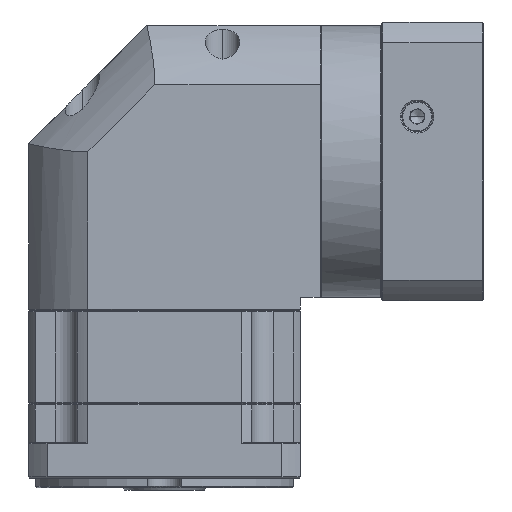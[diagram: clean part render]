
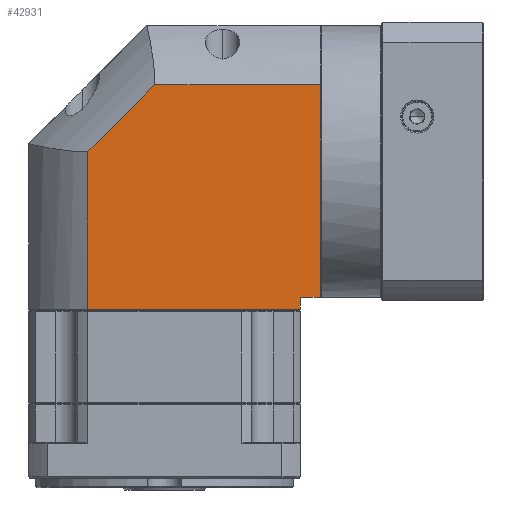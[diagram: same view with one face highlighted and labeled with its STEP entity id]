
A CAD part, front view. The second image highlights one B-rep face of the part: STEP entity #42931.
In plain terms, the highlighted planar face has unit normal (0, -1, 0).
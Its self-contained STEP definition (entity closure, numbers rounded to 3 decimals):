
#1263 = VECTOR ( 'NONE', #60266, 1000. ) ;
#1783 = CARTESIAN_POINT ( 'NONE',  ( 119.553, 28.176, 68.824 ) ) ;
#2024 = DIRECTION ( 'NONE',  ( 0.707, 0., 0.707 ) ) ;
#6990 = VECTOR ( 'NONE', #124355, 1000. ) ;
#11728 = DIRECTION ( 'NONE',  ( -1., 0., 0. ) ) ;
#12485 = ORIENTED_EDGE ( 'NONE', *, *, #112736, .F. ) ;
#16589 = ORIENTED_EDGE ( 'NONE', *, *, #67187, .F. ) ;
#16621 = AXIS2_PLACEMENT_3D ( 'NONE', #87569, #128921, #56803 ) ;
#17801 = EDGE_CURVE ( 'NONE', #25911, #35485, #99144, .T. ) ;
#20176 = CARTESIAN_POINT ( 'NONE',  ( 111.153, 28.176, -26.076 ) ) ;
#20768 = EDGE_CURVE ( 'NONE', #40958, #79579, #25205, .T. ) ;
#22366 = LINE ( 'NONE', #24633, #75065 ) ;
#23696 = VERTEX_POINT ( 'NONE', #88135 ) ;
#24633 = CARTESIAN_POINT ( 'NONE',  ( 119.553, 28.176, -32.576 ) ) ;
#25205 = LINE ( 'NONE', #38788, #1263 ) ;
#25911 = VERTEX_POINT ( 'NONE', #62731 ) ;
#26493 = DIRECTION ( 'NONE',  ( 0., 0., 1. ) ) ;
#32080 = CARTESIAN_POINT ( 'NONE',  ( -3.847, 28.176, -26.076 ) ) ;
#34665 = ORIENTED_EDGE ( 'NONE', *, *, #94541, .F. ) ;
#34876 = DIRECTION ( 'NONE',  ( 0., 0., -1. ) ) ;
#35485 = VERTEX_POINT ( 'NONE', #129229 ) ;
#38788 = CARTESIAN_POINT ( 'NONE',  ( -3.847, 28.176, 68.824 ) ) ;
#40958 = VERTEX_POINT ( 'NONE', #98734 ) ;
#42931 = ADVANCED_FACE ( 'NONE', ( #131127 ), #97285, .F. ) ;
#44399 = EDGE_LOOP ( 'NONE', ( #16589, #12485, #75685, #83689, #34665, #106977, #94474 ) ) ;
#56803 = DIRECTION ( 'NONE',  ( 1., 0., 0. ) ) ;
#58651 = VECTOR ( 'NONE', #127348, 1000. ) ;
#58691 = VECTOR ( 'NONE', #11728, 1000. ) ;
#59339 = VECTOR ( 'NONE', #26493, 1000. ) ;
#60076 = VECTOR ( 'NONE', #2024, 1000. ) ;
#60266 = DIRECTION ( 'NONE',  ( 1., 0., 0. ) ) ;
#62640 = CARTESIAN_POINT ( 'NONE',  ( -3.847, 28.176, -21.076 ) ) ;
#62731 = CARTESIAN_POINT ( 'NONE',  ( 21.253, 28.176, -26.076 ) ) ;
#66392 = VERTEX_POINT ( 'NONE', #20176 ) ;
#67187 = EDGE_CURVE ( 'NONE', #23696, #66392, #95286, .T. ) ;
#75065 = VECTOR ( 'NONE', #34876, 1000. ) ;
#75685 = ORIENTED_EDGE ( 'NONE', *, *, #113509, .F. ) ;
#79394 = VERTEX_POINT ( 'NONE', #92785 ) ;
#79579 = VERTEX_POINT ( 'NONE', #1783 ) ;
#82864 = CARTESIAN_POINT ( 'NONE',  ( 21.253, 28.176, 40.486 ) ) ;
#83689 = ORIENTED_EDGE ( 'NONE', *, *, #20768, .F. ) ;
#87569 = CARTESIAN_POINT ( 'NONE',  ( -3.847, 28.176, -32.576 ) ) ;
#88135 = CARTESIAN_POINT ( 'NONE',  ( 111.153, 28.176, -21.076 ) ) ;
#92785 = CARTESIAN_POINT ( 'NONE',  ( 119.553, 28.176, -21.076 ) ) ;
#94474 = ORIENTED_EDGE ( 'NONE', *, *, #126914, .F. ) ;
#94541 = EDGE_CURVE ( 'NONE', #35485, #40958, #123802, .T. ) ;
#95286 = LINE ( 'NONE', #95734, #58651 ) ;
#95734 = CARTESIAN_POINT ( 'NONE',  ( 111.153, 28.176, -32.576 ) ) ;
#96920 = CARTESIAN_POINT ( 'NONE',  ( 21.253, 28.176, -32.576 ) ) ;
#97285 = PLANE ( 'NONE',  #16621 ) ;
#98734 = CARTESIAN_POINT ( 'NONE',  ( 49.591, 28.176, 68.824 ) ) ;
#99144 = LINE ( 'NONE', #96920, #59339 ) ;
#106977 = ORIENTED_EDGE ( 'NONE', *, *, #17801, .F. ) ;
#112736 = EDGE_CURVE ( 'NONE', #79394, #23696, #128802, .T. ) ;
#113509 = EDGE_CURVE ( 'NONE', #79579, #79394, #22366, .T. ) ;
#121920 = LINE ( 'NONE', #32080, #6990 ) ;
#123802 = LINE ( 'NONE', #82864, #60076 ) ;
#124355 = DIRECTION ( 'NONE',  ( -1., 0., 0. ) ) ;
#126914 = EDGE_CURVE ( 'NONE', #66392, #25911, #121920, .T. ) ;
#127348 = DIRECTION ( 'NONE',  ( 0., 0., -1. ) ) ;
#128802 = LINE ( 'NONE', #62640, #58691 ) ;
#128921 = DIRECTION ( 'NONE',  ( 0., 1., 0. ) ) ;
#129229 = CARTESIAN_POINT ( 'NONE',  ( 21.253, 28.176, 40.486 ) ) ;
#131127 = FACE_OUTER_BOUND ( 'NONE', #44399, .T. ) ;
